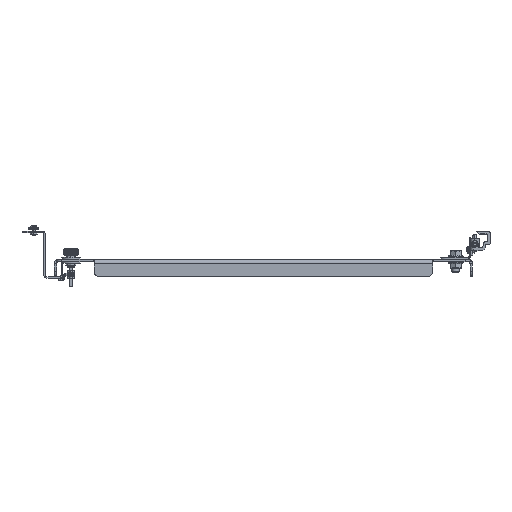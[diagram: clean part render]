
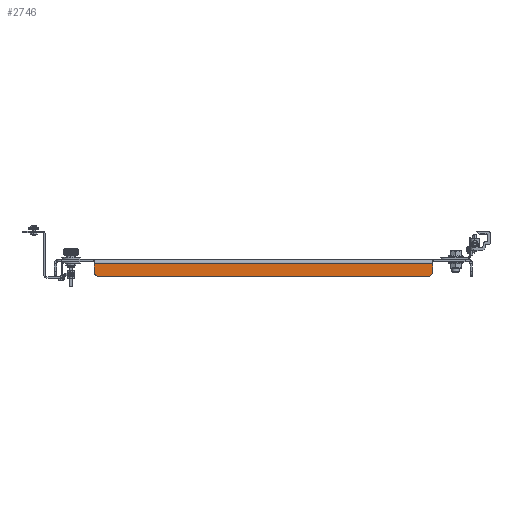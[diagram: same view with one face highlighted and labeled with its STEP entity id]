
A CAD part, left-side view. The second image highlights one B-rep face of the part: STEP entity #2746.
In plain terms, the highlighted planar face has unit normal (-1, 0, 0).
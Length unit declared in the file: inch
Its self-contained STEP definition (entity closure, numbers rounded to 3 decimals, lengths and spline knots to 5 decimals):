
#713=DIRECTION('',(0.,1.,0.));
#714=VECTOR('',#713,16.9375);
#715=CARTESIAN_POINT('',(-16.46875,-8.46875,-0.237));
#716=LINE('',#715,#714);
#782=CARTESIAN_POINT('',(-16.46875,8.21875,-0.625));
#783=DIRECTION('',(-1.,0.,0.));
#784=DIRECTION('',(0.,1.,0.));
#785=AXIS2_PLACEMENT_3D('',#782,#783,#784);
#787=DIRECTION('',(0.,0.,-1.));
#788=VECTOR('',#787,0.388);
#789=CARTESIAN_POINT('',(-16.46875,8.46875,-0.237));
#790=LINE('',#789,#788);
#791=DIRECTION('',(0.,0.,1.));
#792=VECTOR('',#791,0.388);
#793=CARTESIAN_POINT('',(-16.46875,-8.46875,-0.625));
#794=LINE('',#793,#792);
#795=CARTESIAN_POINT('',(-16.46875,-8.21875,-0.625));
#796=DIRECTION('',(-1.,0.,0.));
#797=DIRECTION('',(0.,0.,-1.));
#798=AXIS2_PLACEMENT_3D('',#795,#796,#797);
#800=DIRECTION('',(0.,-1.,0.));
#801=VECTOR('',#800,16.4375);
#802=CARTESIAN_POINT('',(-16.46875,8.21875,-0.875));
#803=LINE('',#802,#801);
#1238=CARTESIAN_POINT('',(-16.46875,-8.46875,-0.237));
#1239=CARTESIAN_POINT('',(-16.46875,8.46875,-0.237));
#1240=VERTEX_POINT('',#1238);
#1241=VERTEX_POINT('',#1239);
#1478=CARTESIAN_POINT('',(-16.46875,8.46875,-0.625));
#1479=CARTESIAN_POINT('',(-16.46875,8.21875,-0.875));
#1480=VERTEX_POINT('',#1478);
#1481=VERTEX_POINT('',#1479);
#1486=CARTESIAN_POINT('',(-16.46875,-8.21875,-0.875));
#1487=CARTESIAN_POINT('',(-16.46875,-8.46875,-0.625));
#1488=VERTEX_POINT('',#1486);
#1489=VERTEX_POINT('',#1487);
#2730=CARTESIAN_POINT('',(-16.46875,10.34375,0.));
#2731=DIRECTION('',(-1.,0.,0.));
#2732=DIRECTION('',(0.,1.,0.));
#2733=AXIS2_PLACEMENT_3D('',#2730,#2731,#2732);
#2734=PLANE('',#2733);
#2735=ORIENTED_EDGE('',*,*,#2720,.F.);
#2736=ORIENTED_EDGE('',*,*,#2710,.F.);
#2737=ORIENTED_EDGE('',*,*,#2532,.F.);
#2739=ORIENTED_EDGE('',*,*,#2738,.F.);
#2741=ORIENTED_EDGE('',*,*,#2740,.F.);
#2743=ORIENTED_EDGE('',*,*,#2742,.F.);
#2744=EDGE_LOOP('',(#2735,#2736,#2737,#2739,#2741,#2743));
#2745=FACE_OUTER_BOUND('',#2744,.F.);
#786=CIRCLE('',#785,0.25);
#799=CIRCLE('',#798,0.25);
#2532=EDGE_CURVE('',#1240,#1241,#716,.T.);
#2710=EDGE_CURVE('',#1241,#1480,#790,.T.);
#2720=EDGE_CURVE('',#1480,#1481,#786,.T.);
#2738=EDGE_CURVE('',#1489,#1240,#794,.T.);
#2740=EDGE_CURVE('',#1488,#1489,#799,.T.);
#2742=EDGE_CURVE('',#1481,#1488,#803,.T.);
#2746=ADVANCED_FACE('',(#2745),#2734,.T.);
